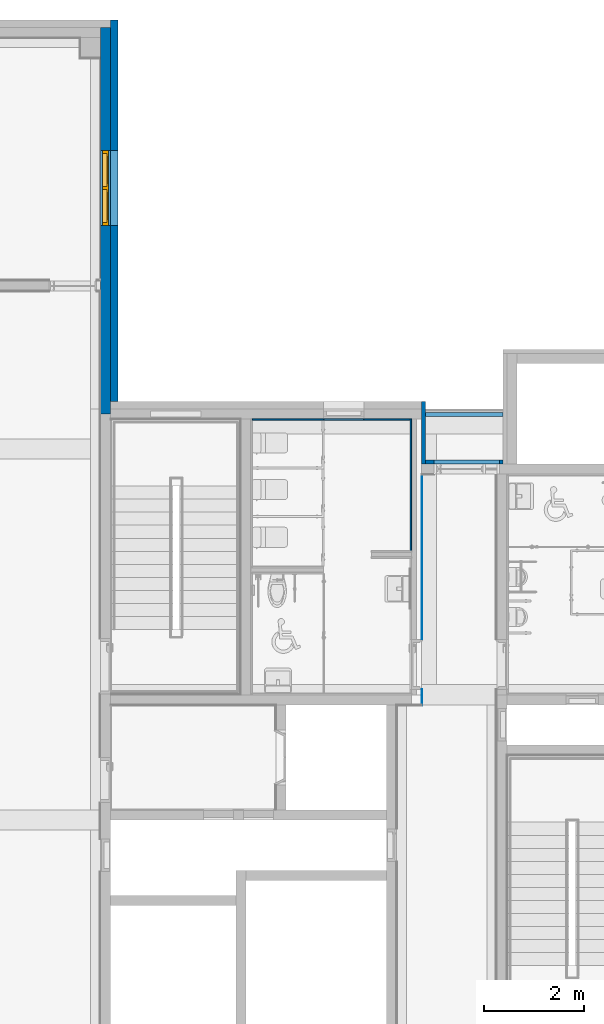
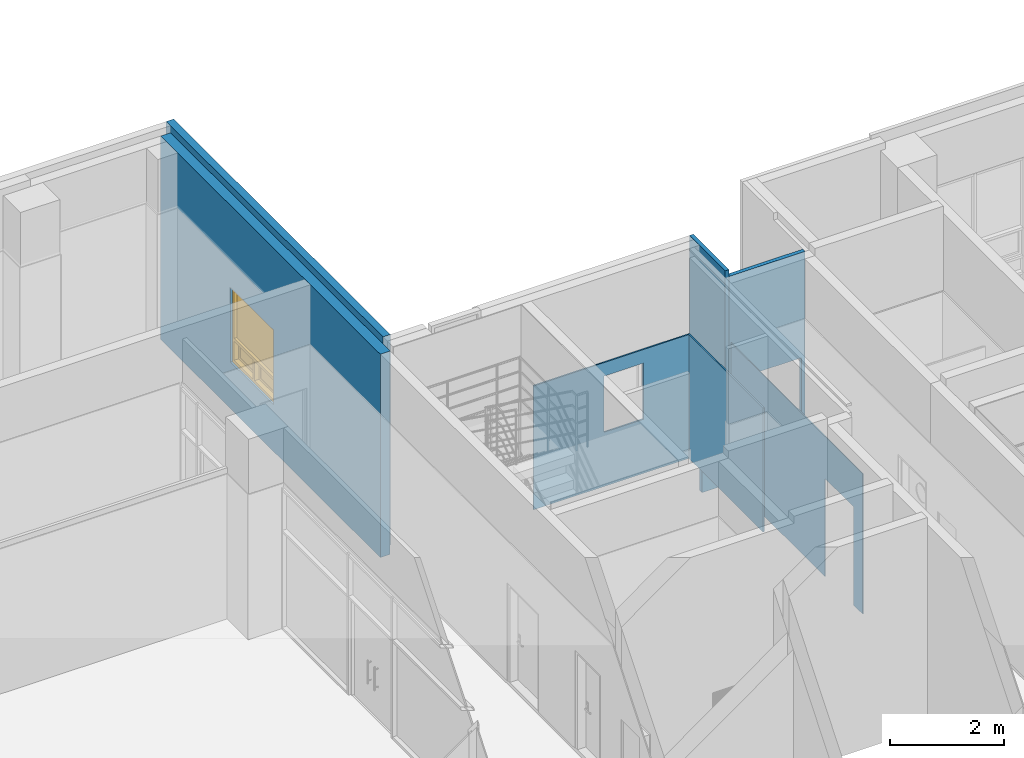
# One storey, part 59 of 74: 8 walls, 1 window, 5 openings.
"""IFC2X3 building model written with IfcOpenShell, lengths in millimetres."""

from ifc_helpers import new_model, entity, si_unit, converted_unit, derived_unit, direction, frame, frame_2d, origin, place, context, subcontext, project, spatial, polyline, rectangle, extrude, clip, bounded_halfspace, faceted_brep, source, transform, mapped, material, material_list, layer, layer_set, layer_usage, type_object, type_shapes, element, fill, save


model = new_model("IFC2X3")

# Units and contexts
model_context = context("Model", 3, precision=0.01, world=origin(), true_north=direction((6.123031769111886e-17, 1.0)))
body_context = subcontext(model_context, "Body", "Model", "MODEL_VIEW")
ifc_project = project(units=[si_unit("LENGTHUNIT", "METRE", prefix="MILLI"), si_unit("AREAUNIT", "SQUARE_METRE"), si_unit("VOLUMEUNIT", "CUBIC_METRE"), converted_unit("PLANEANGLEUNIT", "DEGREE", entity("IfcRatioMeasure", 0.017453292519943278), si_unit("PLANEANGLEUNIT", "RADIAN"), dimensions=[0, 0, 0, 0, 0, 0, 0]), si_unit("MASSUNIT", "GRAM", prefix="KILO"), derived_unit("MASSDENSITYUNIT", [(si_unit("MASSUNIT", "GRAM", prefix="KILO"), 1), (si_unit("LENGTHUNIT", "METRE"), -3)]), derived_unit("MOMENTOFINERTIAUNIT", [(si_unit("LENGTHUNIT", "METRE"), 4)]), si_unit("TIMEUNIT", "SECOND"), si_unit("FREQUENCYUNIT", "HERTZ"), si_unit("THERMODYNAMICTEMPERATUREUNIT", "DEGREE_CELSIUS"), derived_unit("THERMALTRANSMITTANCEUNIT", [(si_unit("MASSUNIT", "GRAM", prefix="KILO"), 1), (si_unit("THERMODYNAMICTEMPERATUREUNIT", "KELVIN"), -1), (si_unit("TIMEUNIT", "SECOND"), -3)]), derived_unit("VOLUMETRICFLOWRATEUNIT", [(si_unit("LENGTHUNIT", "METRE"), 3), (si_unit("TIMEUNIT", "SECOND"), -1)]), derived_unit("MASSFLOWRATEUNIT", [(si_unit("MASSUNIT", "GRAM", prefix="KILO"), 1), (si_unit("TIMEUNIT", "SECOND"), -1)]), derived_unit("ROTATIONALFREQUENCYUNIT", [(si_unit("TIMEUNIT", "SECOND"), -1)]), si_unit("ELECTRICCURRENTUNIT", "AMPERE"), si_unit("ELECTRICVOLTAGEUNIT", "VOLT"), si_unit("POWERUNIT", "WATT"), si_unit("FORCEUNIT", "NEWTON", prefix="KILO"), si_unit("ILLUMINANCEUNIT", "LUX"), si_unit("LUMINOUSFLUXUNIT", "LUMEN"), si_unit("LUMINOUSINTENSITYUNIT", "CANDELA"), derived_unit("USERDEFINED", [(si_unit("MASSUNIT", "GRAM", prefix="KILO"), -1), (si_unit("LENGTHUNIT", "METRE"), -2), (si_unit("TIMEUNIT", "SECOND"), 3), (si_unit("LUMINOUSFLUXUNIT", "LUMEN"), 1)]), derived_unit("SOUNDPOWERUNIT", [(si_unit("MASSUNIT", "GRAM", prefix="KILO"), 1), (si_unit("LENGTHUNIT", "METRE"), 2), (si_unit("TIMEUNIT", "SECOND"), -3)]), derived_unit("SOUNDPRESSUREUNIT", [(si_unit("MASSUNIT", "GRAM", prefix="KILO"), 1), (si_unit("LENGTHUNIT", "METRE"), -1), (si_unit("TIMEUNIT", "SECOND"), -2)]), derived_unit("LINEARVELOCITYUNIT", [(si_unit("LENGTHUNIT", "METRE"), 1), (si_unit("TIMEUNIT", "SECOND"), -1)]), si_unit("PRESSUREUNIT", "PASCAL"), derived_unit("USERDEFINED", [(si_unit("LENGTHUNIT", "METRE"), -2), (si_unit("MASSUNIT", "GRAM", prefix="KILO"), 1), (si_unit("TIMEUNIT", "SECOND"), -2)]), derived_unit("LINEARFORCEUNIT", [(si_unit("MASSUNIT", "GRAM", prefix="KILO"), 1), (si_unit("LENGTHUNIT", "METRE"), 1), (si_unit("TIMEUNIT", "SECOND"), -2), (si_unit("LENGTHUNIT", "METRE"), -1)]), derived_unit("PLANARFORCEUNIT", [(si_unit("MASSUNIT", "GRAM", prefix="KILO"), 1), (si_unit("LENGTHUNIT", "METRE"), 1), (si_unit("TIMEUNIT", "SECOND"), -2), (si_unit("LENGTHUNIT", "METRE"), -2)])], contexts=[model_context])

# Site, building, storey
site_placement = place(None, frame((-14167.972527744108, -657.2125860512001, 0.0)))
site = spatial("IfcSite", under=ifc_project, at=site_placement, Name="Default", CompositionType="ELEMENT")
building_placement = place(site_placement, origin())
building = spatial("IfcBuilding", under=site, at=building_placement, Name="Sample Building", CompositionType="ELEMENT")
storey_placement = place(building_placement, frame((0.0, 0.0, 4800.0)))
storey = spatial("IfcBuildingStorey", under=building, at=storey_placement, Name="지상 2층", CompositionType="ELEMENT", Elevation=4800.000000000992)

# Wall, opening, window
ifc_material_1 = material(Name="KBIMS-콘크리트")
ifc_layer_1 = layer(ifc_material_1, 200.0)
ifc_layer_set_1 = layer_set([ifc_layer_1], Name="기본 벽:WA111-철근콘크리트구조 벽 200mm_W1")
ifc_layer_usage_1 = layer_usage(ifc_layer_set_1, "AXIS2", "NEGATIVE", 100.0)
wall_type_1 = type_object("IfcWallType", Name="기본 벽:WA111-철근콘크리트구조 벽 200mm_W1", PredefinedType="STANDARD", material=ifc_layer_set_1)
wall_1_placement = place(storey_placement, frame((30167.96376153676, 28057.212307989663, -1.9340006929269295e-09), z_axis=(0.0, 0.0, 1.0), x_axis=(0.0, 1.0, 0.0)))
wall_1 = element("IfcWallStandardCase", 1, at=wall_1_placement, inside=storey, type_object=wall_type_1, material=ifc_layer_usage_1, Name="기본 벽:WA111-철근콘크리트구조 벽 200mm_W1", ObjectType="기본 벽:WA111-철근콘크리트구조 벽 200mm_W1", context=body_context, shape_type="Clipping", body=[
    clip(extrude(rectangle(XDim=7699.999987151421, YDim=200.00000000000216, at=frame_2d((3849.9999935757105, -2.1671553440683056e-12), x_axis=(-1.0, 0.0))), origin(), (0.0, 0.0, 1.0), 4350.000000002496), bounded_halfspace(frame((0.0, -100.0, 4350.0), z_axis=(0.0, 0.0, -1.0), x_axis=(0.0, -1.0, 0.0)), True, frame((0.0, -100.0, 4350.0), z_axis=(0.0, 0.0, -1.0), x_axis=(0.0, -1.0, 0.0)), polyline([(0.0, 0.0), (-60960.0, 0.0), (-60960.0, -30480.09028257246), (-60960.0, -2164080.094198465), (-60960.0, -2286000.0), (-60960.0, -2346960.0), (0.0, -2346960.0), (0.0, 0.0)]))),
])
opening_1_placement = place(wall_1_placement, frame((5249.999987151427, 100.0, 1000.0)))
opening_1 = element("IfcOpeningElement", 2, at=opening_1_placement, cuts=wall_1, Name="WD842-2단 하부 더블 프로젝트 창(스테인리스 스틸):WD842-2단 하부 더블 프로젝트 창(스테인리스 스틸)_1500x1600mm:1", ObjectType="Opening", context=body_context, shape_type="SweptSolid", body=[
    extrude(rectangle(XDim=1600.0000000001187, YDim=1499.9999999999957, at=frame_2d((800.0000000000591, 749.9999999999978), x_axis=(1.0, 0.0))), frame((0.0, 0.0, 0.0), z_axis=(0.0, -1.0, 0.0), x_axis=(0.0, 0.0, 1.0)), (0.0, 0.0, 1.0), 200.0),
])
ifc_material_2 = material(Name="KBIMS-스테인리스 스틸_도금")
ifc_material_3 = material(Name="KBIMS-유리")
ifc_material_list_1 = material_list([ifc_material_2, ifc_material_3])
ifc_material_list_2 = material_list([ifc_material_2, ifc_material_3, ifc_material_2, ifc_material_3, ifc_material_2, ifc_material_2, ifc_material_3])
window_style = type_object("IfcWindowStyle", Name="WD842-2단 하부 더블 프로젝트 창(스테인리스 스틸):WD842-2단 하부 더블 프로젝트 창(스테인리스 스틸)_1500x1600mm", ConstructionType="NOTDEFINED", OperationType="NOTDEFINED", ParameterTakesPrecedence=False, Sizeable=False, material=ifc_material_list_2)
shared_shape = source(origin(), body_context, "Body", "Brep", [
    faceted_brep([(60.0, 37.49999999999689, 470.0), (60.0, 162.4999999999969, 470.0), (720.0, 162.4999999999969, 470.0), (720.0, 37.49999999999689, 470.0), (0.0, 162.4999999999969, 530.0), (0.0, 37.49999999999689, 530.0), (60.0, 37.49999999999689, 530.0), (1440.0, 37.49999999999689, 530.0), (1500.0, 37.49999999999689, 530.0), (1500.0, 162.4999999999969, 530.0), (1440.0, 162.4999999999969, 530.0), (60.0, 162.4999999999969, 530.0), (1440.0, 37.49999999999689, 470.0), (1440.0, 162.4999999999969, 470.0), (1440.0, 162.4999999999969, 60.0), (1440.0, 37.49999999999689, 60.0), (1500.0, 37.49999999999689, 0.0), (1500.0, 162.4999999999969, 0.0), (780.0, 162.4999999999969, 60.0), (780.0, 37.49999999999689, 60.0), (0.0, 37.49999999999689, 0.0), (0.0, 162.4999999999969, 0.0), (60.0, 37.49999999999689, 60.0), (60.0, 162.4999999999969, 60.0), (780.0, 37.49999999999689, 470.0), (720.0, 37.49999999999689, 60.0), (780.0, 162.4999999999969, 470.0), (720.0, 162.4999999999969, 60.0)], [[[0, 1, 2, 3]], [[4, 5, 6, 7, 8, 9, 10, 11]], [[12, 13, 14, 15]], [[9, 8, 16, 17]], [[15, 14, 18, 19]], [[17, 16, 20, 21]], [[1, 0, 22, 23]], [[8, 7, 6, 5, 20, 16], [12, 15, 19, 24], [0, 3, 25, 22]], [[5, 4, 21, 20]], [[14, 13, 26, 18], [23, 27, 2, 1], [4, 11, 10, 9, 17, 21]], [[18, 26, 24, 19]], [[2, 27, 25, 3]], [[23, 22, 25, 27]], [[13, 12, 24, 26]]], outer=[[True], [True], [True], [True], [True], [True], [True], [True, False, False], [True], [False, False, True], [True], [True], [True], [True]]),
    faceted_brep([(680.0, 151.0, 430.0), (680.0, 139.0, 430.0), (680.0, 139.0, 100.0), (680.0, 151.0, 100.0), (100.0, 139.0, 430.0), (100.0, 139.0, 100.0), (100.0, 151.0, 430.0), (100.0, 151.0, 100.0)], [[[0, 1, 2, 3]], [[1, 4, 5, 2]], [[4, 6, 7, 5]], [[0, 6, 4, 1]], [[3, 2, 5, 7]], [[6, 0, 3, 7]]]),
    faceted_brep([(110.0, 151.0, 420.0), (110.0, 160.0, 420.0), (670.0, 160.0, 420.0), (670.0, 151.0, 420.0), (100.0, 139.0, 430.0), (100.0, 151.0, 430.0), (680.0, 151.0, 430.0), (680.0, 139.0, 430.0), (110.0, 130.0, 420.0), (110.0, 139.0, 420.0), (670.0, 139.0, 420.0), (670.0, 130.0, 420.0), (60.0, 160.0, 470.0), (60.0, 130.0, 470.0), (720.0, 130.0, 470.0), (720.0, 160.0, 470.0), (670.0, 160.0, 110.0), (670.0, 151.0, 110.0), (680.0, 151.0, 100.0), (680.0, 139.0, 100.0), (670.0, 139.0, 110.0), (670.0, 130.0, 110.0), (720.0, 130.0, 60.0), (720.0, 160.0, 60.0), (110.0, 160.0, 110.0), (110.0, 151.0, 110.0), (100.0, 151.0, 100.0), (100.0, 139.0, 100.0), (110.0, 139.0, 110.0), (110.0, 130.0, 110.0), (60.0, 130.0, 60.0), (60.0, 160.0, 60.0)], [[[0, 1, 2, 3]], [[4, 5, 6, 7]], [[8, 9, 10, 11]], [[12, 13, 14, 15]], [[3, 2, 16, 17]], [[7, 6, 18, 19]], [[11, 10, 20, 21]], [[15, 14, 22, 23]], [[17, 16, 24, 25]], [[19, 18, 26, 27]], [[21, 20, 28, 29]], [[23, 22, 30, 31]], [[25, 24, 1, 0]], [[3, 17, 25, 0], [5, 26, 18, 6]], [[27, 26, 5, 4]], [[7, 19, 27, 4], [9, 28, 20, 10]], [[29, 28, 9, 8]], [[11, 21, 29, 8], [13, 30, 22, 14]], [[31, 30, 13, 12]], [[1, 24, 16, 2], [15, 23, 31, 12]]], outer=[[True], [True], [True], [True], [True], [True], [True], [True], [True], [True], [True], [True], [True], [False, True], [True], [True, False], [True], [False, True], [True], [False, True]]),
    faceted_brep([(1400.0, 151.0, 430.0), (820.0, 151.0, 430.0), (820.0, 139.0, 430.0), (1400.0, 139.0, 430.0), (1400.0, 151.0, 100.0), (1400.0, 139.0, 100.0), (820.0, 139.0, 100.0), (820.0, 151.0, 100.0)], [[[0, 1, 2, 3]], [[4, 5, 6, 7]], [[1, 0, 4, 7]], [[2, 1, 7, 6]], [[3, 2, 6, 5]], [[0, 3, 5, 4]]]),
    faceted_brep([(820.0, 139.0, 100.0), (820.0, 151.0, 100.0), (820.0, 151.0, 430.0), (820.0, 139.0, 430.0), (1390.0, 151.0, 420.0), (1390.0, 151.0, 110.0), (830.0, 151.0, 110.0), (830.0, 151.0, 420.0), (1400.0, 151.0, 100.0), (1400.0, 151.0, 430.0), (830.0, 160.0, 110.0), (830.0, 160.0, 420.0), (1390.0, 160.0, 420.0), (1390.0, 160.0, 110.0), (1400.0, 139.0, 430.0), (1400.0, 139.0, 100.0), (1390.0, 130.0, 420.0), (1390.0, 139.0, 420.0), (1390.0, 139.0, 110.0), (1390.0, 130.0, 110.0), (830.0, 130.0, 420.0), (830.0, 139.0, 420.0), (780.0, 160.0, 470.0), (780.0, 130.0, 470.0), (1440.0, 130.0, 470.0), (1440.0, 160.0, 470.0), (1440.0, 130.0, 60.0), (1440.0, 160.0, 60.0), (830.0, 139.0, 110.0), (830.0, 130.0, 110.0), (780.0, 130.0, 60.0), (780.0, 160.0, 60.0)], [[[0, 1, 2, 3]], [[4, 5, 6, 7], [2, 1, 8, 9]], [[6, 10, 11, 7]], [[4, 12, 13, 5]], [[14, 9, 8, 15]], [[16, 17, 18, 19]], [[7, 11, 12, 4]], [[3, 2, 9, 14]], [[20, 21, 17, 16]], [[22, 23, 24, 25]], [[25, 24, 26, 27]], [[5, 13, 10, 6]], [[15, 8, 1, 0]], [[19, 18, 28, 29]], [[27, 26, 30, 31]], [[14, 15, 0, 3], [21, 28, 18, 17]], [[29, 28, 21, 20]], [[16, 19, 29, 20], [23, 30, 26, 24]], [[31, 30, 23, 22]], [[11, 10, 13, 12], [25, 27, 31, 22]]], outer=[[True], [False, True], [True], [True], [True], [True], [True], [True], [True], [True], [True], [True], [True], [True], [True], [True, False], [True], [False, True], [True], [False, True]]),
    faceted_brep([(60.0, 37.50000000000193, 1540.0), (60.0, 162.50000000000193, 1540.0), (1440.0, 162.50000000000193, 1540.0), (1440.0, 37.50000000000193, 1540.0), (0.0, 162.50000000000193, 1600.0), (0.0, 37.50000000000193, 1600.0), (1500.0, 37.50000000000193, 1600.0), (1500.0, 162.50000000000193, 1600.0), (1440.0, 162.50000000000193, 530.0), (1440.0, 37.50000000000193, 530.0), (1500.0, 37.50000000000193, 530.0), (1500.0, 162.50000000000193, 530.0), (60.0, 37.50000000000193, 530.0), (60.0, 162.50000000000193, 530.0), (0.0, 37.50000000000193, 530.0), (0.0, 162.50000000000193, 530.0)], [[[0, 1, 2, 3]], [[4, 5, 6, 7]], [[3, 2, 8, 9]], [[7, 6, 10, 11]], [[1, 0, 12, 13]], [[0, 3, 9, 10, 6, 5, 14, 12]], [[5, 4, 15, 14]], [[2, 1, 13, 15, 4, 7, 11, 8]], [[13, 12, 14, 15]], [[9, 8, 11, 10]]]),
    faceted_brep([(1440.0, 106.0, 1540.0), (60.0, 106.0, 1540.0), (60.0, 94.0, 1540.0), (1440.0, 94.0, 1540.0), (1440.0, 106.0, 530.0), (60.0, 106.0, 530.0), (60.0, 94.0, 530.0), (1440.0, 94.0, 530.0)], [[[0, 1, 2, 3]], [[1, 0, 4, 5]], [[2, 1, 5, 6]], [[3, 2, 6, 7]], [[0, 3, 7, 4]], [[5, 4, 7, 6]]]),
])
type_shapes(window_style, [shared_shape])
window_placement = place(opening_1_placement, frame((0.0, 0.0, 1.9335857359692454e-09), z_axis=(0.0, 0.0, 1.0), x_axis=(-1.0, 0.0, 0.0)))
window = element("IfcWindow", 3, at=window_placement, inside=storey, type_object=window_style, material=ifc_material_list_1, Name="WD842-2단 하부 더블 프로젝트 창(스테인리스 스틸):WD842-2단 하부 더블 프로젝트 창(스테인리스 스틸)_1500x1600mm", ObjectType="WD842-2단 하부 더블 프로젝트 창(스테인리스 스틸):WD842-2단 하부 더블 프로젝트 창(스테인리스 스틸)_1500x1600mm", OverallHeight=1600.0000000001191, OverallWidth=1499.9999999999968, context=body_context, shape_type="MappedRepresentation", body=[
    mapped(shared_shape, transform((0.0, 0.0, 0.0), scale=1.0)),
])
fill(opening_1, window)

# Walls
ifc_material_4 = material(Name="KBIMS-화강석 잔다듬")
ifc_layer_2 = layer(ifc_material_4, 80.0)
ifc_layer_set_2 = layer_set([ifc_layer_2], Name="기본 벽:WA313-화강석잔다듬 벽 (30, 건식50) 80mm")
ifc_layer_usage_2 = layer_usage(ifc_layer_set_2, "AXIS2", "POSITIVE", -40.0)
wall_type_2 = type_object("IfcWallType", Name="기본 벽:WA313-화강석잔다듬 벽 (30, 건식50) 80mm", PredefinedType="STANDARD", material=ifc_layer_set_2)
wall_2_placement = place(storey_placement, frame((36507.963798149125, 27057.212295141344, -1.9340006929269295e-09), z_axis=(0.0, 0.0, 1.0), x_axis=(0.0, 1.0, 0.0)))
element("IfcWallStandardCase", 4, at=wall_2_placement, inside=storey, type_object=wall_type_2, material=ifc_layer_usage_2, Name="기본 벽:WA313-화강석잔다듬 벽 (30, 건식50) 80mm", ObjectType="기본 벽:WA313-화강석잔다듬 벽 (30, 건식50) 80mm", context=body_context, shape_type="SweptSolid", body=[
    extrude(rectangle(XDim=1250.0000128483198, YDim=79.99999999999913, at=frame_2d((625.0000064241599, 0.0), x_axis=(-1.0, 0.0))), origin(), (0.0, 0.0, 1.0), 4500.000000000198),
])
ifc_layer_usage_3 = layer_usage(ifc_layer_set_2, "AXIS2", "NEGATIVE", 40.0)
wall_3_placement = place(storey_placement, frame((38087.97249112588, 28047.212307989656, -850.0), z_axis=(0.0, 0.0, 1.0), x_axis=(-1.0, 0.0, 0.0)))
element("IfcWallStandardCase", 5, at=wall_3_placement, inside=storey, type_object=wall_type_2, material=ifc_layer_usage_3, Name="기본 벽:WA313-화강석잔다듬 벽 (30, 건식50) 80mm", ObjectType="기본 벽:WA313-화강석잔다듬 벽 (30, 건식50) 80mm", context=body_context, shape_type="SweptSolid", body=[
    extrude(rectangle(XDim=1540.008692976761, YDim=79.99999999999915, at=frame_2d((770.0043464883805, -1.765698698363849e-12), x_axis=(-1.0, 0.0))), origin(), (0.0, 0.0, 1.0), 850.0000000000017),
])

# Wall, opening
ifc_layer_usage_4 = layer_usage(ifc_layer_set_2, "AXIS2", "POSITIVE", -40.0)
wall_4_placement = place(storey_placement, frame((38087.972491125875, 27097.21229514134, -1.9340006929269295e-09), z_axis=(0.0, 0.0, 1.0), x_axis=(-1.0, 0.0, 0.0)))
wall_4 = element("IfcWallStandardCase", 6, at=wall_4_placement, inside=storey, type_object=wall_type_2, material=ifc_layer_usage_4, Name="기본 벽:WA313-화강석잔다듬 벽 (30, 건식50) 80mm", ObjectType="기본 벽:WA313-화강석잔다듬 벽 (30, 건식50) 80mm", context=body_context, shape_type="Clipping", body=[
    clip(extrude(rectangle(XDim=1540.0086929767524, YDim=79.99999999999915, at=frame_2d((770.0043464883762, 2.5579538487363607e-13), x_axis=(-1.0, 0.0))), origin(), (0.0, 0.0, 1.0), 4350.000000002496), bounded_halfspace(frame((0.0, -40.0, 4350.0), z_axis=(0.0, 0.0, -1.0), x_axis=(-1.0, 0.0, 0.0)), True, frame((0.0, -40.0, 4350.0), z_axis=(0.0, 0.0, -1.0), x_axis=(-1.0, 0.0, 0.0)), polyline([(0.0, 0.0), (0.0, 24384.0), (-469394.6496193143, 24384.0), (-469394.64961931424, -1.4791964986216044e-09), (0.0, 0.0)]))),
])
opening_2_placement = place(wall_4_placement, origin())
element("IfcOpeningElement", 7, at=opening_2_placement, cuts=wall_4, Name="기본 벽:WA313-화강석잔다듬 벽 (30, 건식50) 80mm", ObjectType="Opening", context=body_context, shape_type="SweptSolid", body=[
    extrude(rectangle(XDim=2020.000000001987, YDim=1300.008692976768, at=frame_2d((-2.1600499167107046e-12, 5.684341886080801e-13), x_axis=(0.0, 1.0))), frame((720.0043464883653, -192.39999999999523, 1090.0), z_axis=(0.0, 1.0, 0.0), x_axis=(-1.0, 0.0, 0.0)), (0.0, 0.0, 1.0), 384.79999999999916),
])

ifc_material_5 = material(Name="WA240-ALC블록벽")
ifc_layer_3 = layer(ifc_material_5, 35.0)
ifc_material_6 = material(Name="WA795-(STEEL)BRACKET")
ifc_layer_4 = layer(ifc_material_6, 65.0)
ifc_material_7 = material(Name="WA821-압출스티로폼 벽 (본드붙임, 비중0.03) 50mm")
ifc_layer_5 = layer(ifc_material_7, 50.0)
ifc_layer_set_3 = layer_set([ifc_layer_3, ifc_layer_4, ifc_layer_5], Name="기본 벽:A2-22-02A-압출스티로폼, BRACKET(STEEL), ALC블록 (150mm)")
ifc_layer_usage_5 = layer_usage(ifc_layer_set_3, "AXIS2", "POSITIVE", -75.0)
wall_type_3 = type_object("IfcWallType", Name="기본 벽:A2-22-02A-압출스티로폼, BRACKET(STEEL), ALC블록 (150mm)", PredefinedType="STANDARD", material=ifc_layer_set_3)
wall_5_placement = place(storey_placement, frame((30342.963761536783, 28307.212307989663, -1.9340006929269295e-09), z_axis=(0.0, 0.0, 1.0), x_axis=(0.0, 1.0, 0.0)))
wall_5 = element("IfcWallStandardCase", 8, at=wall_5_placement, inside=storey, type_object=wall_type_3, material=ifc_layer_usage_5, Name="기본 벽:A2-22-02A-압출스티로폼, BRACKET(STEEL), ALC블록 (150mm)", ObjectType="기본 벽:A2-22-02A-압출스티로폼, BRACKET(STEEL), ALC블록 (150mm)", context=body_context, shape_type="SweptSolid", body=[
    extrude(rectangle(XDim=7599.999987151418, YDim=150.00000000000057, at=frame_2d((3799.999993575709, -1.4921397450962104e-13), x_axis=(-1.0, 0.0))), origin(), (0.0, 0.0, 1.0), 4500.000000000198),
])
opening_3_placement = place(wall_5_placement, origin())
element("IfcOpeningElement", 9, at=opening_3_placement, cuts=wall_5, Name="기본 벽:A2-22-02A-압출스티로폼, BRACKET(STEEL), ALC블록 (150mm)", ObjectType="Opening", context=body_context, shape_type="SweptSolid", body=[
    extrude(rectangle(XDim=1600.0000000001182, YDim=1499.9999999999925, at=frame_2d((2.1600499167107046e-12, 0.0), x_axis=(0.0, 1.0))), frame((4249.99998715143, -1249.0, 1800.0), z_axis=(0.0, 1.0, 0.0), x_axis=(-1.0, 0.0, 0.0)), (0.0, 0.0, 1.0), 3048.0),
])

ifc_material_8 = material(Name="WA611-수성페인트 (내부) 벽 (3회)")
ifc_layer_6 = layer(ifc_material_8, 1.0)
ifc_material_9 = material(Name="WA551-시멘트모르타르 (내부) 벽 18mm")
ifc_layer_7 = layer(ifc_material_9, 16.0)
ifc_material_10 = material(Name="WA555-콘크리트면정리 벽 (내부)")
ifc_layer_8 = layer(ifc_material_10, 1.0)
ifc_layer_set_4 = layer_set([ifc_layer_6, ifc_layer_7, ifc_layer_8], Name="기본 벽:A1-32-06A-콘크리트면정리, 시멘트모르타르(미장용), 수성페인트(내부) (18mm)")
ifc_layer_usage_6 = layer_usage(ifc_layer_set_4, "AXIS2", "NEGATIVE", 9.000000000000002)
wall_type_4 = type_object("IfcWallType", Name="기본 벽:A1-32-06A-콘크리트면정리, 시멘트모르타르(미장용), 수성페인트(내부) (18mm)", PredefinedType="STANDARD", material=ifc_layer_set_4)
wall_6_placement = place(storey_placement, frame((36476.96379814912, 26857.21229514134, 80.0), z_axis=(0.0, 0.0, 1.0), x_axis=(0.0, -1.0, 0.0)))
wall_6 = element("IfcWallStandardCase", 10, at=wall_6_placement, inside=storey, type_object=wall_type_4, material=ifc_layer_usage_6, Name="기본 벽:A1-32-06A-콘크리트면정리, 시멘트모르타르(미장용), 수성페인트(내부) (18mm)", ObjectType="기본 벽:A1-32-06A-콘크리트면정리, 시멘트모르타르(미장용), 수성페인트(내부) (18mm)", context=body_context, shape_type="SweptSolid", body=[
    extrude(rectangle(XDim=4617.999983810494, YDim=18.00000000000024, at=frame_2d((2308.999991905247, -2.149391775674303e-12), x_axis=(1.0, 0.0))), origin(), (0.0, 0.0, 1.0), 3000.000000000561),
])
opening_4_placement = place(wall_6_placement, origin())
element("IfcOpeningElement", 11, at=opening_4_placement, cuts=wall_6, Name="기본 벽:A1-32-06A-콘크리트면정리, 시멘트모르타르(미장용), 수성페인트(내부) (18mm)", ObjectType="Opening", context=body_context, shape_type="SweptSolid", body=[
    extrude(rectangle(XDim=2099.9999999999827, YDim=999.999999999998, at=frame_2d((0.0, -5.684341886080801e-13), x_axis=(0.0, 1.0))), frame((3793.539477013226, -1533.0, 1050.0), z_axis=(0.0, 1.0, 0.0), x_axis=(-1.0, 0.0, 0.0)), (0.0, 0.0, 1.0), 3048.0),
])

ifc_material_11 = material(Name="WA352-도기질타일 벽 200x200")
ifc_layer_9 = layer(ifc_material_11, 8.0)
ifc_material_12 = material(Name="WA551-시멘트모르타르 (내부) 벽 22mm")
ifc_layer_10 = layer(ifc_material_12, 22.0)
ifc_layer_set_5 = layer_set([ifc_layer_9, ifc_layer_10], Name="기본 벽:A1-33-01B-시멘트 모르타르, 도기질타일 (30mm)")
ifc_layer_usage_7 = layer_usage(ifc_layer_set_5, "AXIS2", "POSITIVE", -15.0)
wall_type_5 = type_object("IfcWallType", Name="기본 벽:A1-33-01B-시멘트 모르타르, 도기질타일 (30mm)", PredefinedType="STANDARD", material=ifc_layer_set_5)
wall_7_placement = place(storey_placement, frame((36237.96379815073, 27942.212307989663, 40.0), z_axis=(0.0, 0.0, 1.0), x_axis=(-1.0, 0.0, 0.0)))
wall_7 = element("IfcWallStandardCase", 12, at=wall_7_placement, inside=storey, type_object=wall_type_5, material=ifc_layer_usage_7, Name="기본 벽:A1-33-01B-시멘트 모르타르, 도기질타일 (30mm)", ObjectType="기본 벽:A1-33-01B-시멘트 모르타르, 도기질타일 (30mm)", context=body_context, shape_type="SweptSolid", body=[
    extrude(rectangle(XDim=3139.982570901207, YDim=30.000000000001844, at=frame_2d((1569.9912854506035, 0.0), x_axis=(-1.0, 0.0))), origin(), (0.0, 0.0, 1.0), 2649.9999999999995),
])
opening_5_placement = place(wall_7_placement, origin())
element("IfcOpeningElement", 13, at=opening_5_placement, cuts=wall_7, Name="기본 벽:A1-33-01B-시멘트 모르타르, 도기질타일 (30mm)", ObjectType="Opening", context=body_context, shape_type="SweptSolid", body=[
    extrude(rectangle(XDim=1200.0000000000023, YDim=799.9999999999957, at=frame_2d((0.0, -2.1600499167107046e-12), x_axis=(1.0, 0.0))), frame((1319.9913070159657, -1739.0, 1760.0), z_axis=(0.0, 1.0, 0.0), x_axis=(0.0, 0.0, 1.0)), (0.0, 0.0, 1.0), 3048.0),
])

# Wall
ifc_layer_usage_8 = layer_usage(ifc_layer_set_5, "AXIS2", "POSITIVE", -15.0)
wall_8_placement = place(storey_placement, frame((36252.96379815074, 25327.212309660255, 40.0), z_axis=(0.0, 0.0, 1.0), x_axis=(0.0, 1.0, 0.0)))
element("IfcWallStandardCase", 14, at=wall_8_placement, inside=storey, type_object=wall_type_5, material=ifc_layer_usage_8, Name="기본 벽:A1-33-01B-시멘트 모르타르, 도기질타일 (30mm)", ObjectType="기본 벽:A1-33-01B-시멘트 모르타르, 도기질타일 (30mm)", context=body_context, shape_type="SweptSolid", body=[
    extrude(rectangle(XDim=2629.9999983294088, YDim=30.00000000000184, at=frame_2d((1314.9999991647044, 1.0418332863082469e-12), x_axis=(-1.0, 0.0))), origin(), (0.0, 0.0, 1.0), 2650.000000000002),
])

save(model, "model.ifc")
